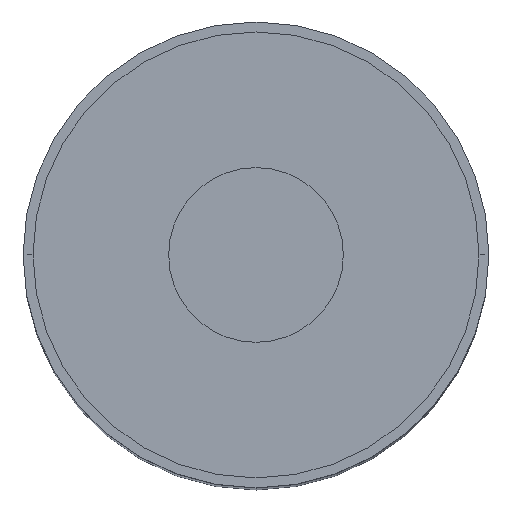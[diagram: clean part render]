
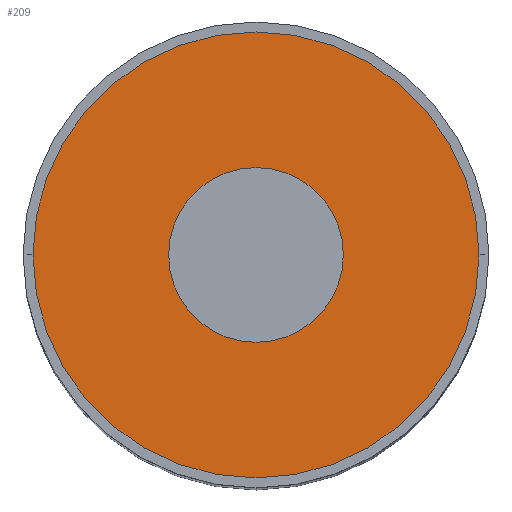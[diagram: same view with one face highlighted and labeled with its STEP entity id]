
A CAD part, top view. The second image highlights one B-rep face of the part: STEP entity #209.
In plain terms, the highlighted planar face has unit normal (0, 0, 1).
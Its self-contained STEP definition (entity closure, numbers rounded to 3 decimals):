
#22 = ORIENTED_EDGE ( 'NONE', *, *, #172, .T. ) ;
#25 = ORIENTED_EDGE ( 'NONE', *, *, #216, .T. ) ;
#61 = AXIS2_PLACEMENT_3D ( 'NONE', #405, #609, #73 ) ;
#63 = EDGE_CURVE ( 'NONE', #223, #146, #123, .T. ) ;
#73 = DIRECTION ( 'NONE',  ( -1., 0., 0. ) ) ;
#78 = VERTEX_POINT ( 'NONE', #674 ) ;
#82 = EDGE_CURVE ( 'NONE', #146, #223, #124, .T. ) ;
#123 = CIRCLE ( 'NONE', #61, 11.488 ) ;
#124 = CIRCLE ( 'NONE', #261, 11.488 ) ;
#146 = VERTEX_POINT ( 'NONE', #731 ) ;
#172 = EDGE_CURVE ( 'NONE', #406, #78, #186, .T. ) ;
#186 = CIRCLE ( 'NONE', #621, 4.5 ) ;
#209 = ADVANCED_FACE ( 'NONE', ( #563, #769 ), #480, .F. ) ;
#216 = EDGE_CURVE ( 'NONE', #78, #406, #705, .T. ) ;
#223 = VERTEX_POINT ( 'NONE', #342 ) ;
#236 = CARTESIAN_POINT ( 'NONE',  ( -4.5, 0., 70.075 ) ) ;
#261 = AXIS2_PLACEMENT_3D ( 'NONE', #694, #450, #389 ) ;
#273 = EDGE_LOOP ( 'NONE', ( #346, #347 ) ) ;
#337 = DIRECTION ( 'NONE',  ( -1., 0., 0. ) ) ;
#340 = DIRECTION ( 'NONE',  ( 0., 0., -1. ) ) ;
#341 = CARTESIAN_POINT ( 'NONE',  ( 0., 0., 70.075 ) ) ;
#342 = CARTESIAN_POINT ( 'NONE',  ( 11.488, 0., 70.075 ) ) ;
#346 = ORIENTED_EDGE ( 'NONE', *, *, #82, .F. ) ;
#347 = ORIENTED_EDGE ( 'NONE', *, *, #63, .F. ) ;
#389 = DIRECTION ( 'NONE',  ( -1., 0., 0. ) ) ;
#405 = CARTESIAN_POINT ( 'NONE',  ( 0., 0., 70.075 ) ) ;
#406 = VERTEX_POINT ( 'NONE', #236 ) ;
#439 = EDGE_LOOP ( 'NONE', ( #22, #25 ) ) ;
#450 = DIRECTION ( 'NONE',  ( 0., 0., -1. ) ) ;
#457 = DIRECTION ( 'NONE',  ( -1., 0., 0. ) ) ;
#459 = DIRECTION ( 'NONE',  ( 0., 0., -1. ) ) ;
#460 = CARTESIAN_POINT ( 'NONE',  ( 0., 4.5, 70.075 ) ) ;
#480 = PLANE ( 'NONE',  #759 ) ;
#563 = FACE_OUTER_BOUND ( 'NONE', #273, .T. ) ;
#609 = DIRECTION ( 'NONE',  ( 0., 0., -1. ) ) ;
#621 = AXIS2_PLACEMENT_3D ( 'NONE', #695, #685, #684 ) ;
#639 = AXIS2_PLACEMENT_3D ( 'NONE', #341, #340, #337 ) ;
#674 = CARTESIAN_POINT ( 'NONE',  ( 4.5, 0., 70.075 ) ) ;
#684 = DIRECTION ( 'NONE',  ( -1., 0., 0. ) ) ;
#685 = DIRECTION ( 'NONE',  ( 0., 0., -1. ) ) ;
#694 = CARTESIAN_POINT ( 'NONE',  ( 0., 0., 70.075 ) ) ;
#695 = CARTESIAN_POINT ( 'NONE',  ( 0., 0., 70.075 ) ) ;
#705 = CIRCLE ( 'NONE', #639, 4.5 ) ;
#731 = CARTESIAN_POINT ( 'NONE',  ( -11.488, 0., 70.075 ) ) ;
#759 = AXIS2_PLACEMENT_3D ( 'NONE', #460, #459, #457 ) ;
#769 = FACE_BOUND ( 'NONE', #439, .T. ) ;
